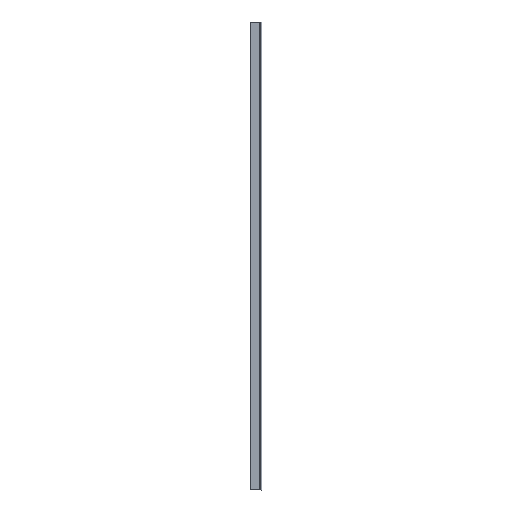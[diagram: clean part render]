
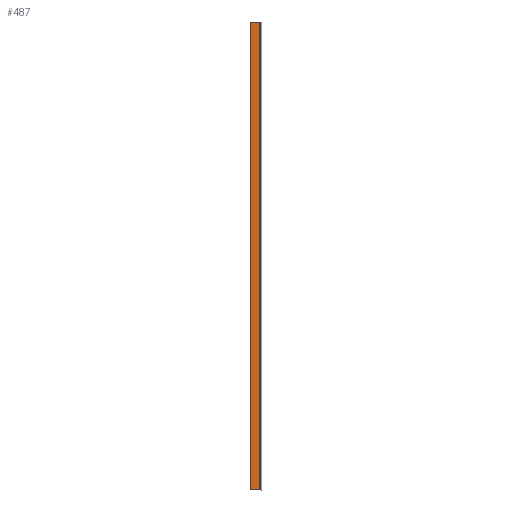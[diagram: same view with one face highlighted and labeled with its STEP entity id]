
A CAD part, left-side view. The second image highlights one B-rep face of the part: STEP entity #487.
In plain terms, the highlighted planar face has unit normal (-1, 0, 0).
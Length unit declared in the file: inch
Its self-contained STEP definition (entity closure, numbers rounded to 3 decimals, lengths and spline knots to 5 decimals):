
#4 = LINE ( 'NONE', #360, #295 ) ;
#46 = CARTESIAN_POINT ( 'NONE',  ( 0., 2.5, 120. ) ) ;
#78 = CARTESIAN_POINT ( 'NONE',  ( 0., 0.03937, 120. ) ) ;
#85 = EDGE_CURVE ( 'NONE', #434, #554, #124, .T. ) ;
#121 = EDGE_CURVE ( 'NONE', #554, #303, #698, .T. ) ;
#124 = LINE ( 'NONE', #46, #134 ) ;
#134 = VECTOR ( 'NONE', #474, 39.37008 ) ;
#144 = CARTESIAN_POINT ( 'NONE',  ( 0., 0.03937, 120. ) ) ;
#156 = EDGE_LOOP ( 'NONE', ( #186, #692, #515, #529 ) ) ;
#157 = EDGE_CURVE ( 'NONE', #345, #303, #4, .T. ) ;
#161 = CARTESIAN_POINT ( 'NONE',  ( 0., 0.03937, 0. ) ) ;
#173 = AXIS2_PLACEMENT_3D ( 'NONE', #540, #194, #688 ) ;
#186 = ORIENTED_EDGE ( 'NONE', *, *, #121, .T. ) ;
#191 = VECTOR ( 'NONE', #249, 39.37008 ) ;
#194 = DIRECTION ( 'NONE',  ( 1., 0., 0. ) ) ;
#249 = DIRECTION ( 'NONE',  ( 0., -1., 0. ) ) ;
#258 = CARTESIAN_POINT ( 'NONE',  ( 0., 0.03937, 0. ) ) ;
#273 = DIRECTION ( 'NONE',  ( 0., -1., 0. ) ) ;
#281 = LINE ( 'NONE', #144, #681 ) ;
#295 = VECTOR ( 'NONE', #304, 39.37008 ) ;
#303 = VERTEX_POINT ( 'NONE', #258 ) ;
#304 = DIRECTION ( 'NONE',  ( 0., 0., -1. ) ) ;
#319 = CARTESIAN_POINT ( 'NONE',  ( 0., 2.5, 0. ) ) ;
#329 = PLANE ( 'NONE',  #173 ) ;
#345 = VERTEX_POINT ( 'NONE', #78 ) ;
#360 = CARTESIAN_POINT ( 'NONE',  ( 0., 0.03937, 120. ) ) ;
#374 = EDGE_CURVE ( 'NONE', #434, #345, #281, .T. ) ;
#434 = VERTEX_POINT ( 'NONE', #509 ) ;
#474 = DIRECTION ( 'NONE',  ( 0., 0., -1. ) ) ;
#487 = ADVANCED_FACE ( 'NONE', ( #690 ), #329, .F. ) ;
#509 = CARTESIAN_POINT ( 'NONE',  ( 0., 2.5, 120. ) ) ;
#515 = ORIENTED_EDGE ( 'NONE', *, *, #374, .F. ) ;
#529 = ORIENTED_EDGE ( 'NONE', *, *, #85, .T. ) ;
#540 = CARTESIAN_POINT ( 'NONE',  ( 0., 0.03937, 120. ) ) ;
#554 = VERTEX_POINT ( 'NONE', #319 ) ;
#681 = VECTOR ( 'NONE', #273, 39.37008 ) ;
#688 = DIRECTION ( 'NONE',  ( 0., 0., -1. ) ) ;
#690 = FACE_OUTER_BOUND ( 'NONE', #156, .T. ) ;
#692 = ORIENTED_EDGE ( 'NONE', *, *, #157, .F. ) ;
#698 = LINE ( 'NONE', #161, #191 ) ;
